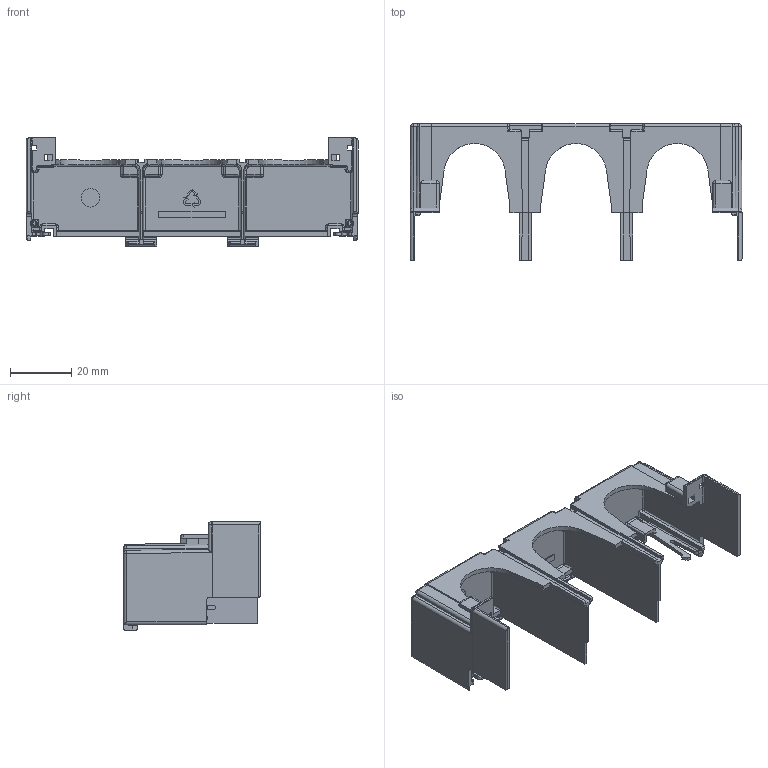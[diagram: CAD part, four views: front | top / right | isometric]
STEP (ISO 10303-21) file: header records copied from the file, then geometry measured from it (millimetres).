
FILE_DESCRIPTION(/* description */ (''),/* implementation_level */ '2;1');
FILE_NAME(/* name */ '1000148',/* time_stamp */ '2014-06-16T14:29:11+02:00',/* author */ (''),/* organization */ (''),/* preprocessor_version */ 'ST-DEVELOPER v9',/* originating_system */ 'UGS - NX 4.0',/* authorisation */ '');
FILE_SCHEMA (('CONFIG_CONTROL_DESIGN'));
Length unit declared in the file: millimetre
Products named in the file (1): MTroCFD28y44
Bounding box: 108 x 44.5 x 35.2 mm (x, y, z)
Volume: 13899.2 mm3; surface area: 20169.5 mm2
Topology: 1 solids, 1 shells, 580 faces, 1539 edges, 918 vertices
Faces by surface type: plane 275, cylinder 221, sphere 38, bspline 34, torus 12
Full cylindrical faces by diameter (mm): 6 x1
Entity records: 17982 total; most frequent: CARTESIAN_POINT 3605, DIRECTION 3056, ORIENTED_EDGE 2992, EDGE_CURVE 1496, AXIS2_PLACEMENT_3D 1029, LINE 998, VECTOR 998, VERTEX_POINT 918
